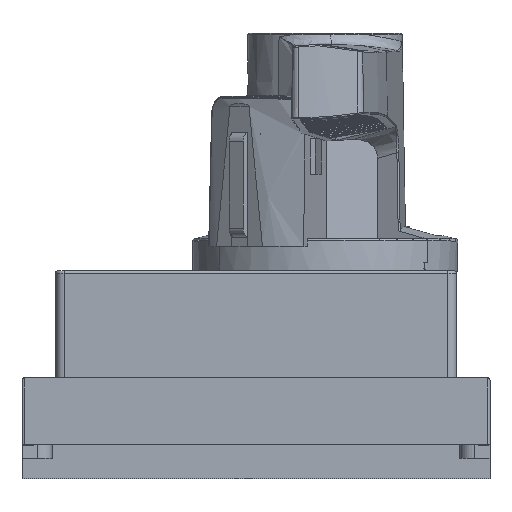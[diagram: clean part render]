
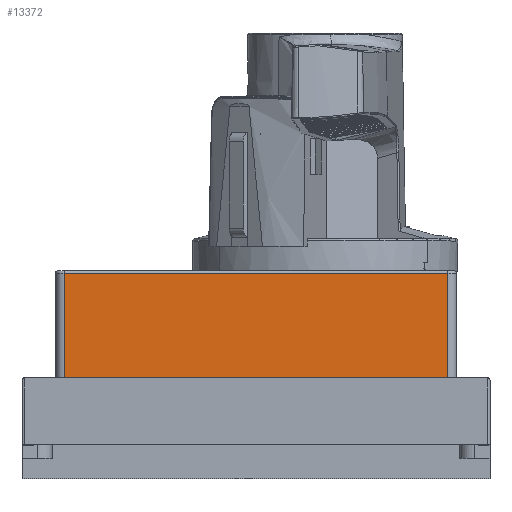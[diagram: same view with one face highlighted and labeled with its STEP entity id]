
A CAD part, top view. The second image highlights one B-rep face of the part: STEP entity #13372.
In plain terms, the highlighted planar face has unit normal (0, 0, 1).
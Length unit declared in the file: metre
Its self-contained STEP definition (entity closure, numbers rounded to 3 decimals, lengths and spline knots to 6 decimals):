
#8219=DIRECTION('',(-1.,0.,0.));
#8220=VECTOR('',#8219,0.086);
#8221=CARTESIAN_POINT('',(0.0955,0.046,-0.003));
#8222=LINE('',#8221,#8220);
#8277=DIRECTION('',(0.,-1.,0.));
#8278=VECTOR('',#8277,0.0235);
#8279=CARTESIAN_POINT('',(0.0095,0.046,-0.003));
#8280=LINE('',#8279,#8278);
#8289=DIRECTION('',(0.,1.,0.));
#8290=VECTOR('',#8289,0.0235);
#8291=CARTESIAN_POINT('',(0.0955,0.0225,-0.003));
#8292=LINE('',#8291,#8290);
#8361=DIRECTION('',(1.,0.,0.));
#8362=VECTOR('',#8361,0.086);
#8363=CARTESIAN_POINT('',(0.0095,0.0225,-0.003));
#8364=LINE('',#8363,#8362);
#12057=CARTESIAN_POINT('',(0.0095,0.046,-0.003));
#12058=VERTEX_POINT('',#12057);
#12059=CARTESIAN_POINT('',(0.0955,0.046,-0.003));
#12060=VERTEX_POINT('',#12059);
#12077=CARTESIAN_POINT('',(0.0095,0.0225,-0.003));
#12078=VERTEX_POINT('',#12077);
#12079=CARTESIAN_POINT('',(0.0955,0.0225,-0.003));
#12080=VERTEX_POINT('',#12079);
#13359=CARTESIAN_POINT('',(0.0975,0.02,-0.003));
#13360=DIRECTION('',(0.,0.,-1.));
#13361=DIRECTION('',(0.,1.,0.));
#13362=AXIS2_PLACEMENT_3D('',#13359,#13360,#13361);
#13363=PLANE('',#13362);
#13365=ORIENTED_EDGE('',*,*,#13364,.F.);
#13367=ORIENTED_EDGE('',*,*,#13366,.F.);
#13368=ORIENTED_EDGE('',*,*,#13350,.F.);
#13369=ORIENTED_EDGE('',*,*,#13241,.F.);
#13370=EDGE_LOOP('',(#13365,#13367,#13368,#13369));
#13371=FACE_OUTER_BOUND('',#13370,.F.);
#13372=ADVANCED_FACE('',(#13371),#13363,.F.);
#13241=EDGE_CURVE('',#12060,#12058,#8222,.T.);
#13350=EDGE_CURVE('',#12058,#12078,#8280,.T.);
#13364=EDGE_CURVE('',#12080,#12060,#8292,.T.);
#13366=EDGE_CURVE('',#12078,#12080,#8364,.T.);
